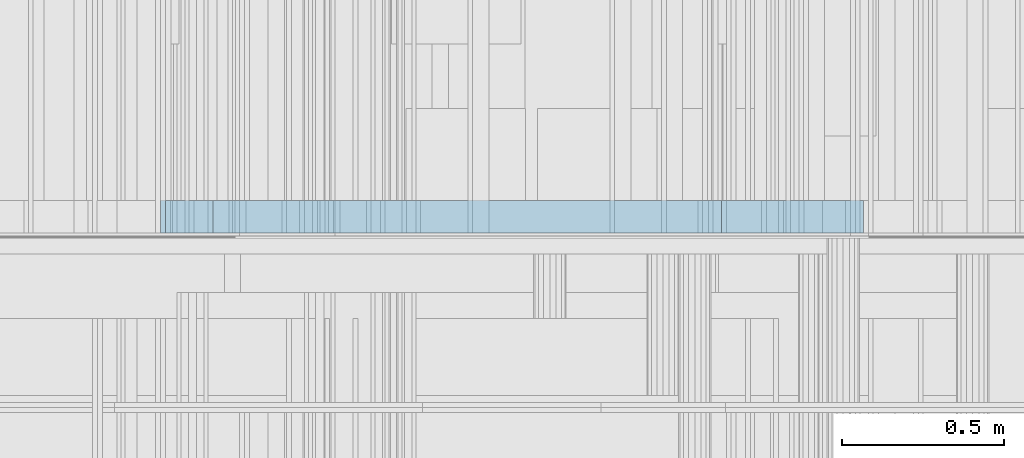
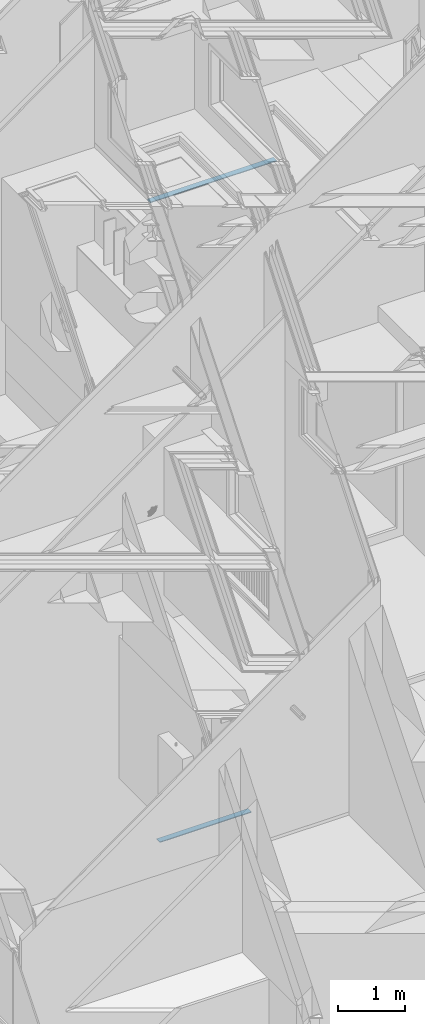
# One storey, part 88 of 583: 2 building element parts, 2 elements without a shape of their own.
"""IFC2X3 building model written with IfcOpenShell, lengths in metres."""

from ifc_helpers import new_model, entity, si_unit, converted_unit, derived_unit, money_unit, direction, frame, frame_2d, origin_with_axes, place, context, subcontext, project, spatial, polyline, rectangle, outline, extrude, material, type_object, element, aggregate, save


model = new_model("IFC2X3")

# Units and contexts
model_context = context("Model", 3, precision=1e-05, world=origin_with_axes(), true_north=direction((0.0, 1.0)))
body_context = subcontext(model_context, "Body", "Model", "MODEL_VIEW", scale=1.0)
ifc_project = project(units=[si_unit("LENGTHUNIT", "METRE"), si_unit("AREAUNIT", "SQUARE_METRE"), si_unit("VOLUMEUNIT", "CUBIC_METRE"), si_unit("ABSORBEDDOSEUNIT", "GRAY"), si_unit("AMOUNTOFSUBSTANCEUNIT", "MOLE"), si_unit("DOSEEQUIVALENTUNIT", "SIEVERT"), si_unit("ELECTRICCAPACITANCEUNIT", "FARAD"), si_unit("ELECTRICCHARGEUNIT", "COULOMB"), si_unit("ELECTRICCONDUCTANCEUNIT", "SIEMENS"), si_unit("ELECTRICCURRENTUNIT", "AMPERE"), si_unit("ELECTRICRESISTANCEUNIT", "OHM"), si_unit("ELECTRICVOLTAGEUNIT", "VOLT"), si_unit("ENERGYUNIT", "JOULE"), si_unit("FORCEUNIT", "NEWTON"), si_unit("FREQUENCYUNIT", "HERTZ"), si_unit("ILLUMINANCEUNIT", "LUX"), si_unit("INDUCTANCEUNIT", "HENRY"), si_unit("LUMINOUSFLUXUNIT", "LUMEN"), si_unit("LUMINOUSINTENSITYUNIT", "CANDELA"), si_unit("MAGNETICFLUXDENSITYUNIT", "TESLA"), si_unit("MAGNETICFLUXUNIT", "WEBER"), si_unit("MASSUNIT", "GRAM"), converted_unit("PLANEANGLEUNIT", "degree", entity("IfcReal", 0.0174532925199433), si_unit("PLANEANGLEUNIT", "RADIAN"), dimensions=[0, 0, 0, 0, 0, 0, 0]), si_unit("POWERUNIT", "WATT"), si_unit("PRESSUREUNIT", "PASCAL"), si_unit("RADIOACTIVITYUNIT", "BECQUEREL"), si_unit("SOLIDANGLEUNIT", "STERADIAN"), si_unit("THERMODYNAMICTEMPERATUREUNIT", "KELVIN"), si_unit("TIMEUNIT", "SECOND"), derived_unit("ACCELERATIONUNIT", [(si_unit("LENGTHUNIT", "METRE"), 1), (si_unit("TIMEUNIT", "SECOND"), -2)]), derived_unit("ANGULARVELOCITYUNIT", [(converted_unit("PLANEANGLEUNIT", "degree", entity("IfcReal", 0.0174532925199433), si_unit("PLANEANGLEUNIT", "RADIAN"), dimensions=[0, 0, 0, 0, 0, 0, 0]), 1), (si_unit("TIMEUNIT", "SECOND"), -1)]), derived_unit("CURVATUREUNIT", [(converted_unit("PLANEANGLEUNIT", "degree", entity("IfcReal", 0.0174532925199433), si_unit("PLANEANGLEUNIT", "RADIAN"), dimensions=[0, 0, 0, 0, 0, 0, 0]), 1), (si_unit("LENGTHUNIT", "METRE"), -1)]), derived_unit("DYNAMICVISCOSITYUNIT", [(si_unit("PRESSUREUNIT", "PASCAL"), 1), (si_unit("TIMEUNIT", "SECOND"), 1)]), derived_unit("HEATFLUXDENSITYUNIT", [(si_unit("POWERUNIT", "WATT"), 1), (si_unit("LENGTHUNIT", "METRE"), -2)]), derived_unit("HEATINGVALUEUNIT", [(si_unit("ENERGYUNIT", "JOULE"), 1), (si_unit("MASSUNIT", "GRAM"), -1)]), derived_unit("INTEGERCOUNTRATEUNIT", [(si_unit("TIMEUNIT", "SECOND"), -1)]), derived_unit("IONCONCENTRATIONUNIT", [(si_unit("MASSUNIT", "GRAM"), 1), (si_unit("VOLUMEUNIT", "CUBIC_METRE"), -1)]), derived_unit("ISOTHERMALMOISTURECAPACITYUNIT", [(si_unit("VOLUMEUNIT", "CUBIC_METRE"), 1), (si_unit("MASSUNIT", "GRAM"), -1)]), derived_unit("KINEMATICVISCOSITYUNIT", [(si_unit("AREAUNIT", "SQUARE_METRE"), 1), (si_unit("TIMEUNIT", "SECOND"), -1)]), derived_unit("LINEARFORCEUNIT", [(si_unit("FORCEUNIT", "NEWTON"), 1), (si_unit("LENGTHUNIT", "METRE"), -1)]), derived_unit("LINEARMOMENTUNIT", [(si_unit("FORCEUNIT", "NEWTON"), 1), (si_unit("LENGTHUNIT", "METRE"), -1)]), derived_unit("LINEARSTIFFNESSUNIT", [(si_unit("FORCEUNIT", "NEWTON"), 1), (si_unit("LENGTHUNIT", "METRE"), -1)]), derived_unit("LINEARVELOCITYUNIT", [(si_unit("LENGTHUNIT", "METRE"), 1), (si_unit("TIMEUNIT", "SECOND"), -1)]), derived_unit("LUMINOUSINTENSITYDISTRIBUTIONUNIT", [(si_unit("LUMINOUSINTENSITYUNIT", "CANDELA"), 1), (si_unit("LUMINOUSFLUXUNIT", "LUMEN"), -1)]), derived_unit("MASSDENSITYUNIT", [(si_unit("MASSUNIT", "GRAM"), 1), (si_unit("VOLUMEUNIT", "CUBIC_METRE"), -1)]), derived_unit("MASSFLOWRATEUNIT", [(si_unit("MASSUNIT", "GRAM"), 1), (si_unit("TIMEUNIT", "SECOND"), -1)]), derived_unit("MASSPERLENGTHUNIT", [(si_unit("MASSUNIT", "GRAM"), 1), (si_unit("LENGTHUNIT", "METRE"), -1)]), derived_unit("MODULUSOFELASTICITYUNIT", [(si_unit("FORCEUNIT", "NEWTON"), 1), (si_unit("AREAUNIT", "SQUARE_METRE"), -1)]), derived_unit("MODULUSOFLINEARSUBGRADEREACTIONUNIT", [(si_unit("FORCEUNIT", "NEWTON"), 1), (si_unit("LENGTHUNIT", "METRE"), -2)]), derived_unit("MODULUSOFROTATIONALSUBGRADEREACTIONUNIT", [(si_unit("FORCEUNIT", "NEWTON"), 1), (si_unit("LENGTHUNIT", "METRE"), 1)]), derived_unit("MODULUSOFSUBGRADEREACTIONUNIT", [(si_unit("FORCEUNIT", "NEWTON"), 1), (si_unit("VOLUMEUNIT", "CUBIC_METRE"), -1)]), derived_unit("MOISTUREDIFFUSIVITYUNIT", [(si_unit("VOLUMEUNIT", "CUBIC_METRE"), 1), (si_unit("TIMEUNIT", "SECOND"), -1)]), derived_unit("MOLECULARWEIGHTUNIT", [(si_unit("MASSUNIT", "GRAM"), 1), (si_unit("AMOUNTOFSUBSTANCEUNIT", "MOLE"), -1)]), derived_unit("PLANARFORCEUNIT", [(si_unit("FORCEUNIT", "NEWTON"), 1), (si_unit("LENGTHUNIT", "METRE"), -2)]), derived_unit("ROTATIONALFREQUENCYUNIT", [(si_unit("TIMEUNIT", "SECOND"), -1)]), derived_unit("ROTATIONALMASSUNIT", [(si_unit("MASSUNIT", "GRAM"), 1), (si_unit("LENGTHUNIT", "METRE"), 2)]), derived_unit("ROTATIONALSTIFFNESSUNIT", [(si_unit("FORCEUNIT", "NEWTON"), 1), (si_unit("LENGTHUNIT", "METRE"), 1), (converted_unit("PLANEANGLEUNIT", "degree", entity("IfcReal", 0.0174532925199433), si_unit("PLANEANGLEUNIT", "RADIAN"), dimensions=[0, 0, 0, 0, 0, 0, 0]), -1)]), derived_unit("SECTIONAREAINTEGRALUNIT", [(si_unit("LENGTHUNIT", "METRE"), 5)]), derived_unit("SECTIONMODULUSUNIT", [(si_unit("LENGTHUNIT", "METRE"), 3)]), derived_unit("SHEARMODULUSUNIT", [(si_unit("FORCEUNIT", "NEWTON"), 1), (si_unit("AREAUNIT", "SQUARE_METRE"), -1)]), derived_unit("SOUNDPOWERUNIT", [(si_unit("ENERGYUNIT", "JOULE"), 1), (si_unit("TIMEUNIT", "SECOND"), -1)]), derived_unit("SPECIFICHEATCAPACITYUNIT", [(si_unit("FORCEUNIT", "NEWTON"), 1), (si_unit("MASSUNIT", "GRAM"), -1), (si_unit("THERMODYNAMICTEMPERATUREUNIT", "KELVIN"), -1)]), derived_unit("TEMPERATUREGRADIENTUNIT", [(si_unit("THERMODYNAMICTEMPERATUREUNIT", "KELVIN"), 1), (si_unit("LENGTHUNIT", "METRE"), -1)]), derived_unit("THERMALADMITTANCEUNIT", [(si_unit("POWERUNIT", "WATT"), 1), (si_unit("AREAUNIT", "SQUARE_METRE"), -1), (si_unit("THERMODYNAMICTEMPERATUREUNIT", "KELVIN"), -1)]), derived_unit("THERMALCONDUCTANCEUNIT", [(si_unit("POWERUNIT", "WATT"), 1), (si_unit("LENGTHUNIT", "METRE"), -1), (si_unit("THERMODYNAMICTEMPERATUREUNIT", "KELVIN"), -1)]), derived_unit("THERMALEXPANSIONCOEFFICIENTUNIT", [(si_unit("THERMODYNAMICTEMPERATUREUNIT", "KELVIN"), -1)]), derived_unit("THERMALRESISTANCEUNIT", [(si_unit("AREAUNIT", "SQUARE_METRE"), 1), (si_unit("POWERUNIT", "WATT"), -1)]), derived_unit("THERMALTRANSMITTANCEUNIT", [(si_unit("POWERUNIT", "WATT"), 1), (si_unit("AREAUNIT", "SQUARE_METRE"), -1), (si_unit("THERMODYNAMICTEMPERATUREUNIT", "KELVIN"), -1)]), derived_unit("TORQUEUNIT", [(si_unit("FORCEUNIT", "NEWTON"), 1), (si_unit("LENGTHUNIT", "METRE"), 1)]), derived_unit("VAPORPERMEABILITYUNIT", [(si_unit("MASSUNIT", "GRAM"), 1), (si_unit("TIMEUNIT", "SECOND"), -1)]), derived_unit("VOLUMETRICFLOWRATEUNIT", [(si_unit("VOLUMEUNIT", "CUBIC_METRE"), 1), (si_unit("TIMEUNIT", "SECOND"), -1)]), derived_unit("WARPINGCONSTANTUNIT", [(si_unit("LENGTHUNIT", "METRE"), 6)]), derived_unit("WARPINGMOMENTUNIT", [(si_unit("FORCEUNIT", "NEWTON"), 1), (si_unit("LENGTHUNIT", "METRE"), 2)]), money_unit("GBP")], contexts=[model_context])

# Site, building, storey
site_placement = place(None, origin_with_axes())
site = spatial("IfcSite", under=ifc_project, at=site_placement, Name="Site", CompositionType="ELEMENT")
building_placement = place(site_placement, origin_with_axes())
building = spatial("IfcBuilding", under=site, at=building_placement, Name="Building01", CompositionType="ELEMENT")
storey_placement = place(building_placement, frame((0.0, 0.0, 20.78), z_axis=(0.0, 0.0, 1.0), x_axis=(1.0, 0.0, 0.0)))
storey = spatial("IfcBuildingStorey", under=building, at=storey_placement, Name="RL", CompositionType="ELEMENT", Elevation=20.78)

# Wall, building element part
wall_type_1 = type_object("IfcWallType", Name="SHE_A-Walls_Type05a_Partition_95mm_tall", PredefinedType="NOTDEFINED")
wall_1_placement = place(storey_placement, frame((6.571475, 12.13, -16.57427), z_axis=(0.0, 1.0, 0.0), x_axis=(1.0, 0.0, 0.0)))
wall_1 = element("IfcWall", 1, at=wall_1_placement, inside=storey, type_object=wall_type_1, Name="5A", ObjectType="SHE_A-Walls_Type05a_Partition_95mm_tall")
ifc_material = material(Name="A_BSUK_Walls_Timber")
building_element_part_1_placement = place(wall_1_placement, origin_with_axes())
building_element_part_1 = element("IfcBuildingElementPart", 2, at=building_element_part_1_placement, material=ifc_material, Name="2", context=body_context, shape_type="SweptSolid", body=[
    extrude(rectangle(XDim=1.574195, YDim=0.015, at=frame_2d((0.837097, 0.0675), x_axis=(-1.0, 0.0))), frame((0.0, 0.0, 0.015), z_axis=(0.0, 0.0, 1.0), x_axis=(1.0, 0.0, 0.0)), (0.0, 0.0, 1.0), 0.1),
])
aggregate(wall_1, [building_element_part_1])

wall_type_2 = type_object("IfcWallType", Name="SHE_A-Walls_Type04a_BlockworkWall_130mm", PredefinedType="NOTDEFINED")
wall_2_placement = place(storey_placement, frame((8.665, 12.13, -5.065), z_axis=(0.0, 1.0, 0.0), x_axis=(-1.0, 0.0, 0.0)))
wall_2 = element("IfcWall", 3, at=wall_2_placement, inside=storey, type_object=wall_type_2, Name="4A", ObjectType="SHE_A-Walls_Type04a_BlockworkWall_130mm")
building_element_part_2_placement = place(wall_2_placement, origin_with_axes())
building_element_part_2 = element("IfcBuildingElementPart", 4, at=building_element_part_2_placement, material=ifc_material, Name="2", context=body_context, shape_type="SweptSolid", body=[
    extrude(outline(polyline([(2.19, 0.13), (0.03, 0.13), (0.03, 0.115), (2.205, 0.115), (2.19, 0.13)])), frame((0.0, 0.0, 0.015), z_axis=(0.0, 0.0, 1.0), x_axis=(1.0, 0.0, 0.0)), (0.0, 0.0, 1.0), 0.1),
])
aggregate(wall_2, [building_element_part_2])

save(model, "model.ifc")
